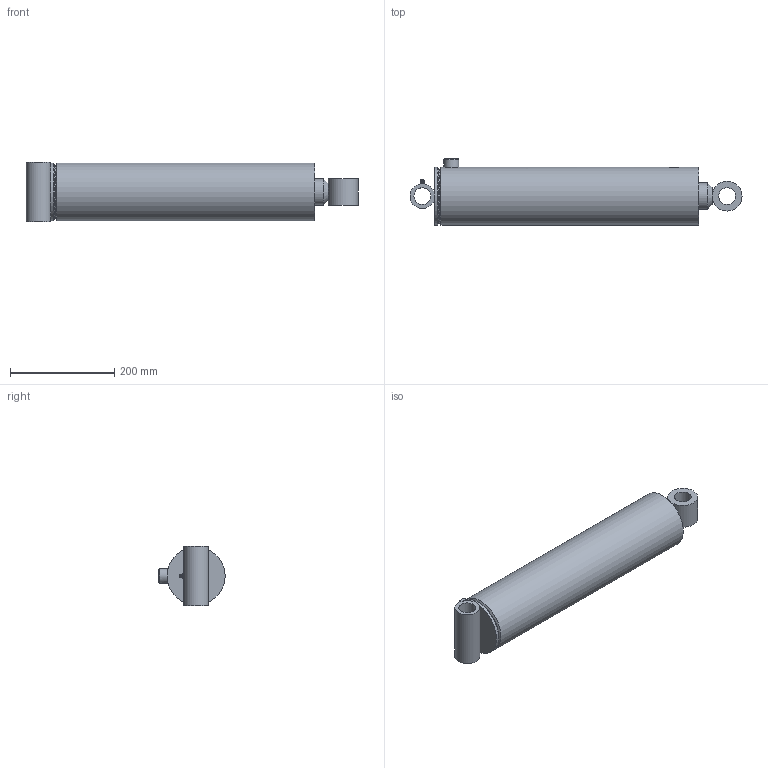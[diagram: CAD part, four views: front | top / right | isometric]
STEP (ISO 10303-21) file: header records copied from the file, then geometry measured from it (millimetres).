
FILE_DESCRIPTION((''),'2;1');
FILE_NAME('\\SRVR-ENG\EngSales\PMC-5614.stp','2011-06-29T07:23:40',('KneiflD'),(''),'Autodesk Inventor 2011','Autodesk Inventor 2011','');
FILE_SCHEMA(('AUTOMOTIVE_DESIGN { 1 0 10303 214 1 1 1 1 }'));
Length unit declared in the file: inch
Products named in the file (20): PMC-5614; 061900933; 051900924; 161900081V; 200014404V; 210600086V; 021100379; 011100997; 210600347V; 071900019; 081900451V; 220000212V; 240000026V; 240061342V; 240000342V; 240020009V; 230001400V; 200018003V; 270010020V; 250001329V
Assembly tree (20 placements, depth 3):
  PMC-5614
    061900933
      051900924
      161900081V
      200014404V
      210600086V
    021100379
      011100997
      210600347V
    071900019
    081900451V
    220000212V
    240000026V
    240061342V
    240000342V
    240020009V
    230001400V
    200018003V  x2
    270010020V
    250001329V
Bounding box: 636.6 x 127 x 114.3 mm (x, y, z)
Volume: 2725371.7 mm3; surface area: 617511.2 mm2
Topology: 18 solids, 18 shells, 218 faces, 438 edges, 263 vertices
Faces by surface type: plane 90, cylinder 57, cone 36, torus 32, bspline 2, sphere 1
Full cylindrical faces by diameter (mm): 1.524 x1, 3.175 x2, 6.074 x1, 8.839 x2, 12.7 x1, 17.463 x1, 17.475 x1, 23.813 x1, 28.575 x1, 29.972 x1, 31.699 x1, 31.826 x1, 32.258 x1, 32.385 x1, 34.315 x1, 47.625 x1, 50.8 x2, 50.876 x2, 51.752 x1, 54.61 x1, 57.15 x1, 58.725 x2, 59.373 x1, 60.325 x1, 60.452 x1, 63.5 x1, 80.95 x1, 91.592 x1, 92.151 x1, 92.71 x1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
Entity records: 5669 total; most frequent: CARTESIAN_POINT 1347, DIRECTION 877, ORIENTED_EDGE 548, AXIS2_PLACEMENT_3D 412, EDGE_LOOP 358, EDGE_CURVE 274, VERTEX_POINT 226, FACE_OUTER_BOUND 201
